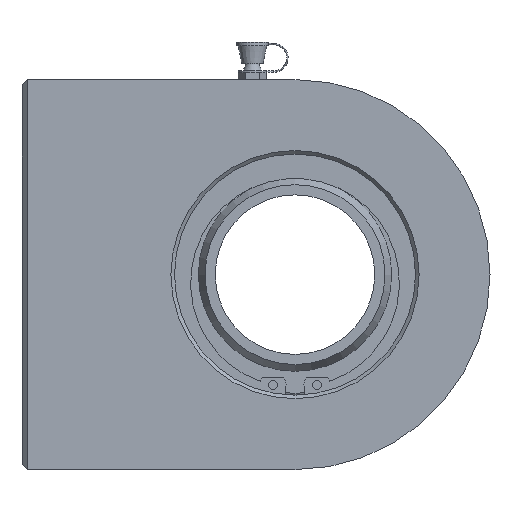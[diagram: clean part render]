
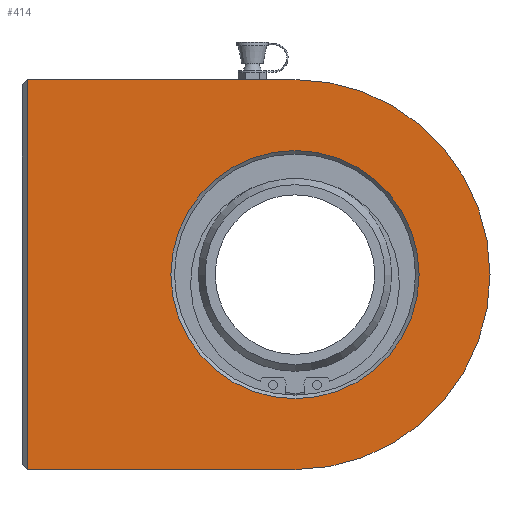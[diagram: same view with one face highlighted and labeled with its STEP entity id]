
A CAD part, front view. The second image highlights one B-rep face of the part: STEP entity #414.
In plain terms, the highlighted planar face has unit normal (0, -1, 0).
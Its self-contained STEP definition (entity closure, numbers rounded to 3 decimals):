
#414 = ADVANCED_FACE( '', ( #822, #823 ), #824, .T. );
#822 = FACE_BOUND( '', #1867, .T. );
#823 = FACE_OUTER_BOUND( '', #1868, .T. );
#824 = PLANE( '', #1869 );
#1867 = EDGE_LOOP( '', ( #2507 ) );
#1868 = EDGE_LOOP( '', ( #2508, #2509, #2510, #2511 ) );
#1869 = AXIS2_PLACEMENT_3D( '', #2512, #2513, #2514 );
#2507 = ORIENTED_EDGE( '', *, *, #2961, .T. );
#2508 = ORIENTED_EDGE( '', *, *, #2838, .T. );
#2509 = ORIENTED_EDGE( '', *, *, #2962, .T. );
#2510 = ORIENTED_EDGE( '', *, *, #2963, .T. );
#2511 = ORIENTED_EDGE( '', *, *, #2931, .T. );
#2512 = CARTESIAN_POINT( '', ( 77., -20., 0. ) );
#2513 = DIRECTION( '', ( 0., -1., 0. ) );
#2514 = DIRECTION( '', ( 0., 0., -1. ) );
#2838 = EDGE_CURVE( '', #3190, #3188, #3191, .T. );
#2931 = EDGE_CURVE( '', #3330, #3190, #3331, .T. );
#2961 = EDGE_CURVE( '', #3364, #3364, #3365, .F. );
#2962 = EDGE_CURVE( '', #3188, #3217, #3366, .T. );
#2963 = EDGE_CURVE( '', #3217, #3330, #3367, .T. );
#3188 = VERTEX_POINT( '', #3797 );
#3190 = VERTEX_POINT( '', #3800 );
#3191 = LINE( '', #3801, #3802 );
#3217 = VERTEX_POINT( '', #3832 );
#3330 = VERTEX_POINT( '', #4032 );
#3331 = CIRCLE( '', #4033, 55. );
#3364 = VERTEX_POINT( '', #4076 );
#3365 = CIRCLE( '', #4077, 35. );
#3366 = LINE( '', #4078, #4079 );
#3367 = LINE( '', #4080, #4081 );
#3797 = CARTESIAN_POINT( '', ( 1.5, -20., 55. ) );
#3800 = CARTESIAN_POINT( '', ( 77., -20., 55. ) );
#3801 = CARTESIAN_POINT( '', ( 77., -20., 55. ) );
#3802 = VECTOR( '', #4362, 1000. );
#3832 = CARTESIAN_POINT( '', ( 1.5, -20., -55. ) );
#4032 = CARTESIAN_POINT( '', ( 77., -20., -55. ) );
#4033 = AXIS2_PLACEMENT_3D( '', #4483, #4484, #4485 );
#4076 = CARTESIAN_POINT( '', ( 77., -20., -35. ) );
#4077 = AXIS2_PLACEMENT_3D( '', #4505, #4506, #4507 );
#4078 = CARTESIAN_POINT( '', ( 1.5, -20., -55. ) );
#4079 = VECTOR( '', #4508, 1000. );
#4080 = CARTESIAN_POINT( '', ( 77., -20., -55. ) );
#4081 = VECTOR( '', #4509, 1000. );
#4362 = DIRECTION( '', ( -1., 0., 0. ) );
#4483 = CARTESIAN_POINT( '', ( 77., -20., 0. ) );
#4484 = DIRECTION( '', ( 0., -1., 0. ) );
#4485 = DIRECTION( '', ( -1., 0., 0. ) );
#4505 = CARTESIAN_POINT( '', ( 77., -20., 0. ) );
#4506 = DIRECTION( '', ( 0., -1., 0. ) );
#4507 = DIRECTION( '', ( 0., 0., -1. ) );
#4508 = DIRECTION( '', ( 0., 0., -1. ) );
#4509 = DIRECTION( '', ( 1., 0., 0. ) );
